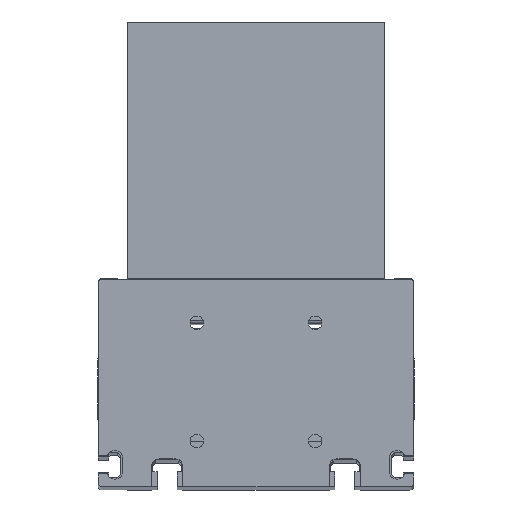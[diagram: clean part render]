
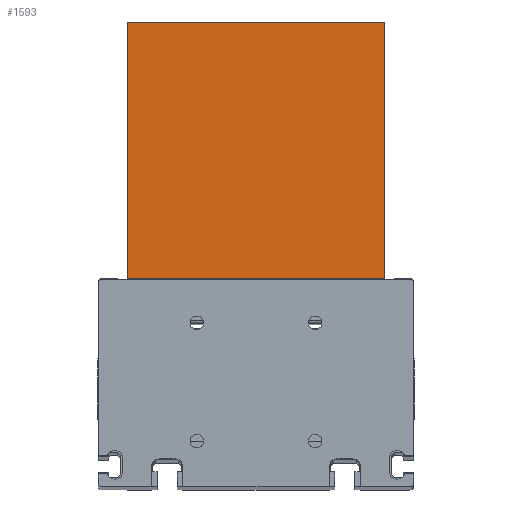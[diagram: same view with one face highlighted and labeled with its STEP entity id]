
A CAD part, top view. The second image highlights one B-rep face of the part: STEP entity #1593.
In plain terms, the highlighted planar face has unit normal (0, 0, 1).
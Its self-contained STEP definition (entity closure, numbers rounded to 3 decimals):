
#138 = LINE ( 'NONE', #1079, #5741 ) ;
#588 = DIRECTION ( 'NONE',  ( 0., 0., -1. ) ) ;
#632 = DIRECTION ( 'NONE',  ( -1., 0., 0. ) ) ;
#780 = VERTEX_POINT ( 'NONE', #5584 ) ;
#1079 = CARTESIAN_POINT ( 'NONE',  ( 65., 0., 135. ) ) ;
#1406 = EDGE_CURVE ( 'NONE', #6184, #6457, #138, .T. ) ;
#1593 = ADVANCED_FACE ( 'NONE', ( #2828 ), #12897, .F. ) ;
#1987 = EDGE_CURVE ( 'NONE', #780, #6457, #12790, .T. ) ;
#2391 = DIRECTION ( 'NONE',  ( 0., -1., 0. ) ) ;
#2453 = VECTOR ( 'NONE', #2391, 1000. ) ;
#2828 = FACE_OUTER_BOUND ( 'NONE', #7357, .T. ) ;
#3327 = VECTOR ( 'NONE', #632, 1000. ) ;
#3634 = CARTESIAN_POINT ( 'NONE',  ( 65., 0., 135. ) ) ;
#4983 = ORIENTED_EDGE ( 'NONE', *, *, #10891, .F. ) ;
#5584 = CARTESIAN_POINT ( 'NONE',  ( -65., 130., 135. ) ) ;
#5668 = ORIENTED_EDGE ( 'NONE', *, *, #11914, .T. ) ;
#5741 = VECTOR ( 'NONE', #11355, 1000. ) ;
#5779 = LINE ( 'NONE', #9908, #3327 ) ;
#6184 = VERTEX_POINT ( 'NONE', #3634 ) ;
#6457 = VERTEX_POINT ( 'NONE', #10569 ) ;
#7357 = EDGE_LOOP ( 'NONE', ( #7741, #12857, #4983, #5668 ) ) ;
#7535 = CARTESIAN_POINT ( 'NONE',  ( -65., 0., 135. ) ) ;
#7741 = ORIENTED_EDGE ( 'NONE', *, *, #1987, .T. ) ;
#8582 = VECTOR ( 'NONE', #12533, 1000. ) ;
#9367 = CARTESIAN_POINT ( 'NONE',  ( 65., 0., 135. ) ) ;
#9660 = AXIS2_PLACEMENT_3D ( 'NONE', #9867, #588, #11063 ) ;
#9867 = CARTESIAN_POINT ( 'NONE',  ( 65., 0., 135. ) ) ;
#9908 = CARTESIAN_POINT ( 'NONE',  ( 65., 130., 135. ) ) ;
#10569 = CARTESIAN_POINT ( 'NONE',  ( -65., 0., 135. ) ) ;
#10891 = EDGE_CURVE ( 'NONE', #11849, #6184, #12326, .T. ) ;
#11063 = DIRECTION ( 'NONE',  ( -1., 0., 0. ) ) ;
#11355 = DIRECTION ( 'NONE',  ( -1., 0., 0. ) ) ;
#11849 = VERTEX_POINT ( 'NONE', #12260 ) ;
#11914 = EDGE_CURVE ( 'NONE', #11849, #780, #5779, .T. ) ;
#12260 = CARTESIAN_POINT ( 'NONE',  ( 65., 130., 135. ) ) ;
#12326 = LINE ( 'NONE', #9367, #8582 ) ;
#12533 = DIRECTION ( 'NONE',  ( 0., -1., 0. ) ) ;
#12790 = LINE ( 'NONE', #7535, #2453 ) ;
#12857 = ORIENTED_EDGE ( 'NONE', *, *, #1406, .F. ) ;
#12897 = PLANE ( 'NONE',  #9660 ) ;
